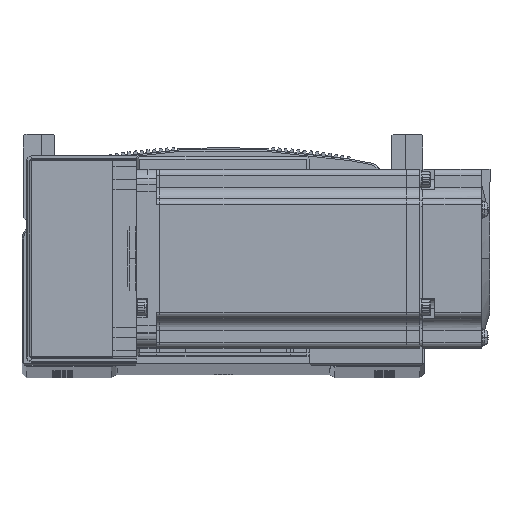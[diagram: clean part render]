
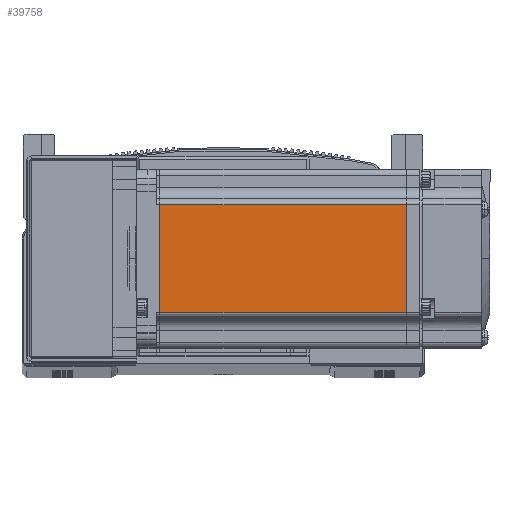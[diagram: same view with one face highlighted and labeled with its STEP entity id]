
A CAD part, top view. The second image highlights one B-rep face of the part: STEP entity #39758.
In plain terms, the highlighted planar face has unit normal (0, 0, 1) as drawn and (0, 0, -1) by its records, which use the part's own axes.
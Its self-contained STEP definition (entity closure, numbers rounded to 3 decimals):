
#136 = EDGE_LOOP ( 'NONE', ( #51070, #51064, #51120, #51176 ) ) ;
#15445 = DIRECTION ( 'NONE',  ( -1., 0., 0. ) ) ;
#15461 = DIRECTION ( 'NONE',  ( 1., 0., 0. ) ) ;
#15480 = CARTESIAN_POINT ( 'NONE',  ( -6.5, -18., -30. ) ) ;
#16221 = DIRECTION ( 'NONE',  ( 0., -1., 0. ) ) ;
#16242 = CARTESIAN_POINT ( 'NONE',  ( -7.75, 25., -30. ) ) ;
#16307 = CARTESIAN_POINT ( 'NONE',  ( -6.5, 18., -30. ) ) ;
#16319 = CARTESIAN_POINT ( 'NONE',  ( -90.45, 25., -30. ) ) ;
#16325 = DIRECTION ( 'NONE',  ( 0., 1., 0. ) ) ;
#21264 = CARTESIAN_POINT ( 'NONE',  ( -7.75, 18., -30. ) ) ;
#21325 = CARTESIAN_POINT ( 'NONE',  ( -90.45, -18., -30. ) ) ;
#21368 = CARTESIAN_POINT ( 'NONE',  ( -90.45, 18., -30. ) ) ;
#21478 = CARTESIAN_POINT ( 'NONE',  ( -7.75, -18., -30. ) ) ;
#23411 = AXIS2_PLACEMENT_3D ( 'NONE', #71178, #71288, #71290 ) ;
#39758 = ADVANCED_FACE ( 'NONE', ( #61143 ), #71175, .T. ) ;
#51064 = ORIENTED_EDGE ( 'NONE', *, *, #54827, .T. ) ;
#51070 = ORIENTED_EDGE ( 'NONE', *, *, #54788, .T. ) ;
#51120 = ORIENTED_EDGE ( 'NONE', *, *, #54823, .T. ) ;
#51176 = ORIENTED_EDGE ( 'NONE', *, *, #54826, .T. ) ;
#51182 = VERTEX_POINT ( 'NONE', #21368 ) ;
#51186 = VERTEX_POINT ( 'NONE', #21264 ) ;
#51219 = VERTEX_POINT ( 'NONE', #21325 ) ;
#51282 = VERTEX_POINT ( 'NONE', #21478 ) ;
#54788 = EDGE_CURVE ( 'NONE', #51186, #51282, #79013, .T. ) ;
#54823 = EDGE_CURVE ( 'NONE', #51219, #51182, #79060, .T. ) ;
#54826 = EDGE_CURVE ( 'NONE', #51182, #51186, #79068, .T. ) ;
#54827 = EDGE_CURVE ( 'NONE', #51282, #51219, #79052, .T. ) ;
#61143 = FACE_OUTER_BOUND ( 'NONE', #136, .T. ) ;
#71175 = PLANE ( 'NONE',  #23411 ) ;
#71178 = CARTESIAN_POINT ( 'NONE',  ( -6.5, 25., -30. ) ) ;
#71288 = DIRECTION ( 'NONE',  ( 0., 0., -1. ) ) ;
#71290 = DIRECTION ( 'NONE',  ( -1., 0., 0. ) ) ;
#78960 = VECTOR ( 'NONE', #16221, 1000. ) ;
#79013 = LINE ( 'NONE', #16242, #78960 ) ;
#79052 = LINE ( 'NONE', #15480, #79070 ) ;
#79060 = LINE ( 'NONE', #16319, #79084 ) ;
#79063 = VECTOR ( 'NONE', #15461, 1000. ) ;
#79068 = LINE ( 'NONE', #16307, #79063 ) ;
#79070 = VECTOR ( 'NONE', #15445, 1000. ) ;
#79084 = VECTOR ( 'NONE', #16325, 1000. ) ;
